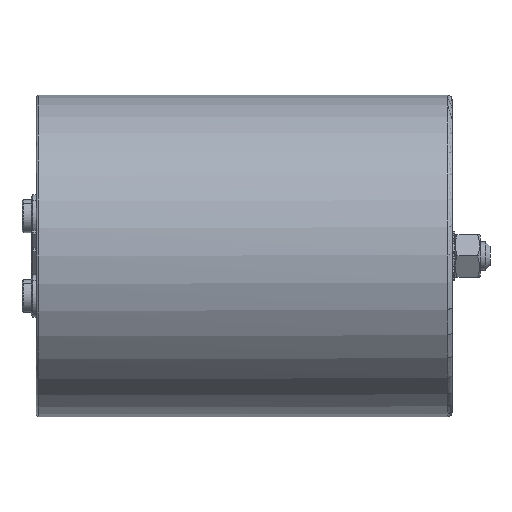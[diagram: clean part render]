
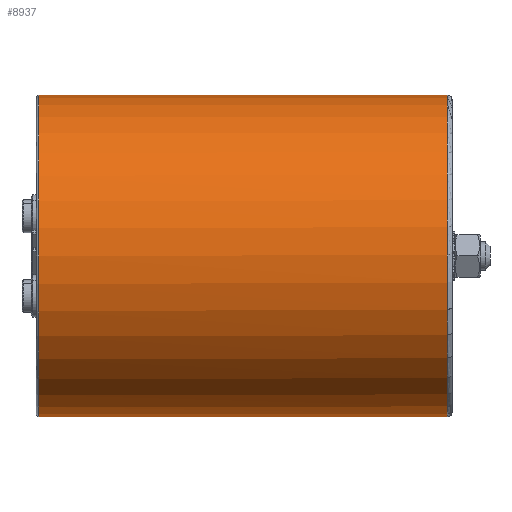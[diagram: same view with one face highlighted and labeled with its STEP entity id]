
A CAD part, left-side view. The second image highlights one B-rep face of the part: STEP entity #8937.
In plain terms, the highlighted cylindrical face has radius 68 mm (diameter 136 mm), a partial arc.
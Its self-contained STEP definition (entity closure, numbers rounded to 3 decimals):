
#209 = AXIS2_PLACEMENT_3D ( 'NONE', #1718, #6011, #5378 ) ;
#215 = VERTEX_POINT ( 'NONE', #3058 ) ;
#332 = CARTESIAN_POINT ( 'NONE',  ( 0., -174., -68. ) ) ;
#489 = EDGE_CURVE ( 'NONE', #1043, #8342, #5946, .T. ) ;
#509 = LINE ( 'NONE', #3659, #1856 ) ;
#779 = AXIS2_PLACEMENT_3D ( 'NONE', #8723, #7963, #6616 ) ;
#913 = EDGE_CURVE ( 'NONE', #6871, #1043, #9184, .T. ) ;
#1005 = DIRECTION ( 'NONE',  ( 0., 1., 0. ) ) ;
#1043 = VERTEX_POINT ( 'NONE', #6272 ) ;
#1146 = EDGE_CURVE ( 'NONE', #6788, #8342, #509, .T. ) ;
#1319 = CYLINDRICAL_SURFACE ( 'NONE', #8934, 68. ) ;
#1659 = ORIENTED_EDGE ( 'NONE', *, *, #1146, .F. ) ;
#1718 = CARTESIAN_POINT ( 'NONE',  ( 0., -174., 0. ) ) ;
#1856 = VECTOR ( 'NONE', #2267, 1000. ) ;
#2267 = DIRECTION ( 'NONE',  ( 0., 1., 0. ) ) ;
#3058 = CARTESIAN_POINT ( 'NONE',  ( -0.849, -174., -67.995 ) ) ;
#3659 = CARTESIAN_POINT ( 'NONE',  ( 0., -55., -68. ) ) ;
#3713 = ORIENTED_EDGE ( 'NONE', *, *, #5372, .T. ) ;
#3765 = CARTESIAN_POINT ( 'NONE',  ( 0., -1., -68. ) ) ;
#4026 = CARTESIAN_POINT ( 'NONE',  ( 0., -174., 68. ) ) ;
#4041 = ORIENTED_EDGE ( 'NONE', *, *, #913, .T. ) ;
#4381 = AXIS2_PLACEMENT_3D ( 'NONE', #8491, #5772, #7923 ) ;
#4496 = CIRCLE ( 'NONE', #4381, 68. ) ;
#4570 = EDGE_CURVE ( 'NONE', #6788, #215, #6664, .T. ) ;
#4646 = CARTESIAN_POINT ( 'NONE',  ( 0., -55., 0. ) ) ;
#4652 = CARTESIAN_POINT ( 'NONE',  ( 0., -55., 68. ) ) ;
#5162 = FACE_OUTER_BOUND ( 'NONE', #6389, .T. ) ;
#5372 = EDGE_CURVE ( 'NONE', #215, #6871, #4496, .T. ) ;
#5378 = DIRECTION ( 'NONE',  ( -0.012, 0., -1. ) ) ;
#5689 = ORIENTED_EDGE ( 'NONE', *, *, #4570, .T. ) ;
#5772 = DIRECTION ( 'NONE',  ( 0., 1., 0. ) ) ;
#5946 = CIRCLE ( 'NONE', #779, 68. ) ;
#6011 = DIRECTION ( 'NONE',  ( 0., 1., 0. ) ) ;
#6272 = CARTESIAN_POINT ( 'NONE',  ( 0., -1., 68. ) ) ;
#6389 = EDGE_LOOP ( 'NONE', ( #3713, #4041, #7827, #1659, #5689 ) ) ;
#6616 = DIRECTION ( 'NONE',  ( 0., 0., 1. ) ) ;
#6664 = CIRCLE ( 'NONE', #209, 68. ) ;
#6788 = VERTEX_POINT ( 'NONE', #332 ) ;
#6846 = DIRECTION ( 'NONE',  ( 0., 0., -1. ) ) ;
#6871 = VERTEX_POINT ( 'NONE', #4026 ) ;
#6951 = DIRECTION ( 'NONE',  ( 0., 1., 0. ) ) ;
#7304 = VECTOR ( 'NONE', #6951, 1000. ) ;
#7827 = ORIENTED_EDGE ( 'NONE', *, *, #489, .T. ) ;
#7923 = DIRECTION ( 'NONE',  ( -0.012, 0., -1. ) ) ;
#7963 = DIRECTION ( 'NONE',  ( 0., -1., 0. ) ) ;
#8342 = VERTEX_POINT ( 'NONE', #3765 ) ;
#8491 = CARTESIAN_POINT ( 'NONE',  ( 0., -174., 0. ) ) ;
#8723 = CARTESIAN_POINT ( 'NONE',  ( 0., -1., 0. ) ) ;
#8934 = AXIS2_PLACEMENT_3D ( 'NONE', #4646, #1005, #6846 ) ;
#8937 = ADVANCED_FACE ( 'NONE', ( #5162 ), #1319, .T. ) ;
#9184 = LINE ( 'NONE', #4652, #7304 ) ;
